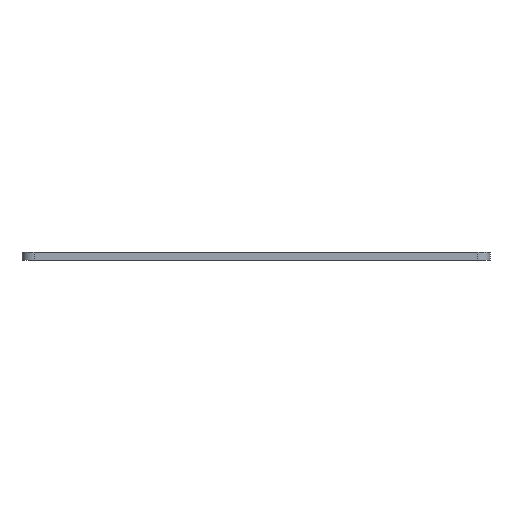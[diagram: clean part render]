
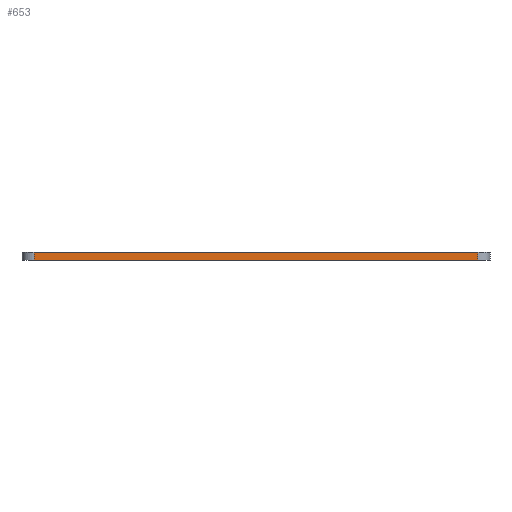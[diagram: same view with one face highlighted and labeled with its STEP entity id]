
A CAD part, left-side view. The second image highlights one B-rep face of the part: STEP entity #653.
In plain terms, the highlighted planar face has unit normal (-1, 0, 0).
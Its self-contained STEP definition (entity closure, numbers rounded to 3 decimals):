
#43 = VERTEX_POINT('',#44);
#44 = CARTESIAN_POINT('',(50.,205.5,230.5));
#51 = EDGE_CURVE('',#52,#43,#54,.T.);
#52 = VERTEX_POINT('',#53);
#53 = CARTESIAN_POINT('',(50.,94.5,230.5));
#54 = LINE('',#55,#56);
#55 = CARTESIAN_POINT('',(50.,91.5,230.5));
#56 = VECTOR('',#57,1.);
#57 = DIRECTION('',(0.,1.,0.));
#608 = VERTEX_POINT('',#609);
#609 = CARTESIAN_POINT('',(50.,205.5,228.5));
#618 = EDGE_CURVE('',#608,#43,#619,.T.);
#619 = LINE('',#620,#621);
#620 = CARTESIAN_POINT('',(50.,205.5,228.5));
#621 = VECTOR('',#622,1.);
#622 = DIRECTION('',(0.,0.,1.));
#653 = ADVANCED_FACE('',(#654),#672,.F.);
#654 = FACE_BOUND('',#655,.F.);
#655 = EDGE_LOOP('',(#656,#657,#665,#671));
#656 = ORIENTED_EDGE('',*,*,#51,.F.);
#657 = ORIENTED_EDGE('',*,*,#658,.F.);
#658 = EDGE_CURVE('',#659,#52,#661,.T.);
#659 = VERTEX_POINT('',#660);
#660 = CARTESIAN_POINT('',(50.,94.5,228.5));
#661 = LINE('',#662,#663);
#662 = CARTESIAN_POINT('',(50.,94.5,228.5));
#663 = VECTOR('',#664,1.);
#664 = DIRECTION('',(0.,0.,1.));
#665 = ORIENTED_EDGE('',*,*,#666,.T.);
#666 = EDGE_CURVE('',#659,#608,#667,.T.);
#667 = LINE('',#668,#669);
#668 = CARTESIAN_POINT('',(50.,91.5,228.5));
#669 = VECTOR('',#670,1.);
#670 = DIRECTION('',(0.,1.,0.));
#671 = ORIENTED_EDGE('',*,*,#618,.T.);
#672 = PLANE('',#673);
#673 = AXIS2_PLACEMENT_3D('',#674,#675,#676);
#674 = CARTESIAN_POINT('',(50.,91.5,228.5));
#675 = DIRECTION('',(1.,0.,0.));
#676 = DIRECTION('',(0.,0.,1.));
